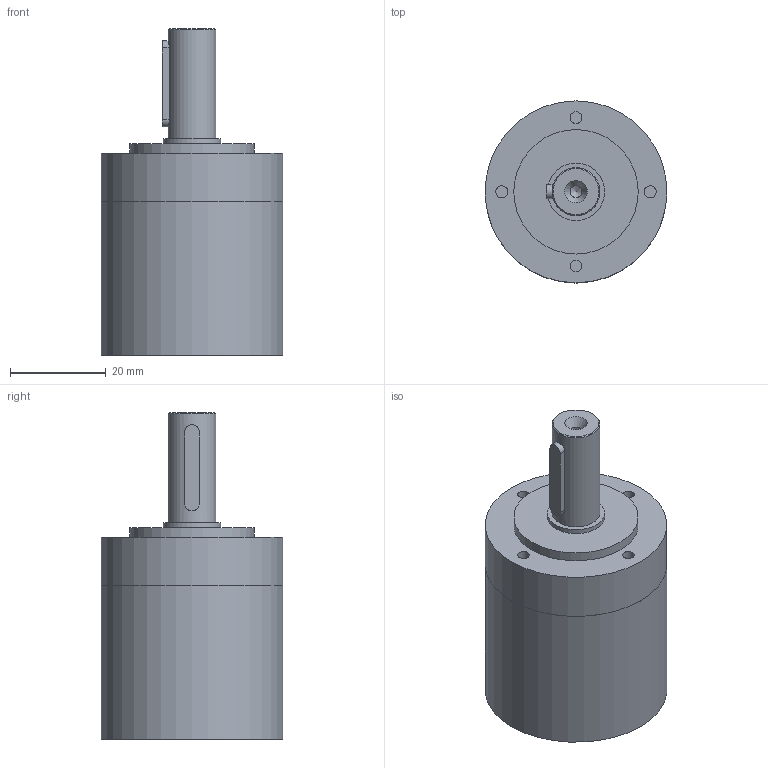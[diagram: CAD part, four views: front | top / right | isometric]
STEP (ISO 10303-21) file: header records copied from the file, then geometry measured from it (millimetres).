
FILE_DESCRIPTION(/* description */ (''),/* implementation_level */ '2;1');
FILE_NAME(/* name */ '38-A_1.stp',/* time_stamp */ '2016-09-16T12:02:28+02:00',/* author */ ('DR. FRITZ FAULHABER GmbH & Co. KG'),/* organization */ ('DR. FRITZ FAULHABER GmbH & Co. KG'),/* preprocessor_version */ 'ST-DEVELOPER v16',/* originating_system */ 'SIEMENS PLM Software NX 10.0',/* authorisation */ '');
FILE_SCHEMA (('AUTOMOTIVE_DESIGN { 1 0 10303 214 3 1 1 1 }'));
Length unit declared in the file: millimetre
Products named in the file (1): huge19E82220l2q0
Bounding box: 38 x 38 x 68.2 mm (x, y, z)
Volume: 37920.9 mm3; surface area: 10302.4 mm2
Topology: 1 solids, 1 shells, 40 faces, 72 edges, 48 vertices
Faces by surface type: plane 19, cylinder 18, cone 3
Full cylindrical faces by diameter (mm): 2.5 x5, 10 x1, 12 x1, 17.88 x1, 18.28 x1, 26 x1, 32.6 x1, 33.3 x1, 35.459 x1, 37.99 x1, 38 x2
Entity records: 930 total; most frequent: CARTESIAN_POINT 190, DIRECTION 162, ORIENTED_EDGE 92, AXIS2_PLACEMENT_3D 77, EDGE_LOOP 74, FACE_BOUND 65, EDGE_CURVE 46, VERTEX_POINT 43
